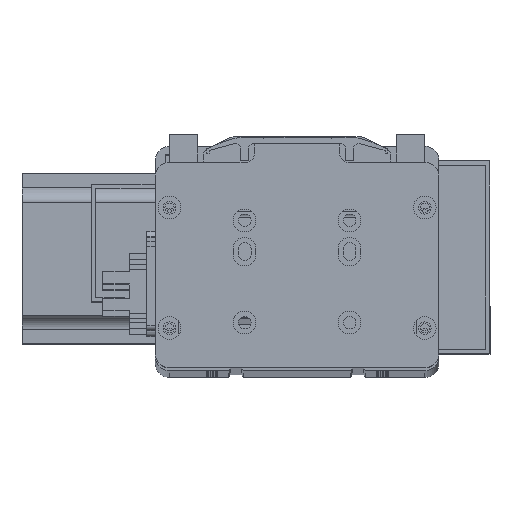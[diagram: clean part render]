
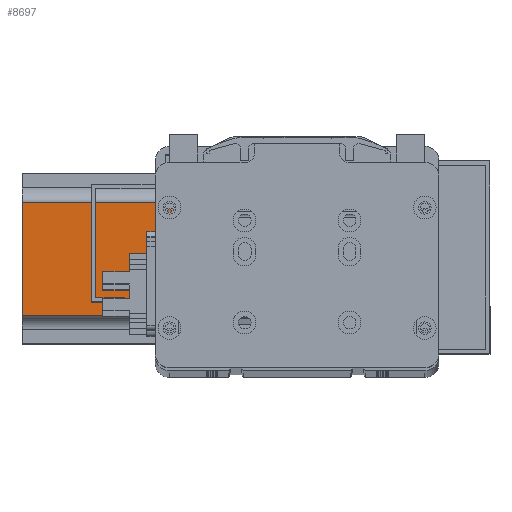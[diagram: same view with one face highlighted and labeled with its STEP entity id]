
A CAD part, top view. The second image highlights one B-rep face of the part: STEP entity #8697.
In plain terms, the highlighted planar face has unit normal (0, 0, 1).
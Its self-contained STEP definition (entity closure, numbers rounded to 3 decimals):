
#8531 = VERTEX_POINT ( 'NONE', #23420 ) ;
#8671 = EDGE_CURVE ( 'NONE', #8736, #8531, #23689, .T. ) ;
#8688 = VERTEX_POINT ( 'NONE', #23709 ) ;
#8694 = VERTEX_POINT ( 'NONE', #23730 ) ;
#8696 = EDGE_CURVE ( 'NONE', #8688, #8694, #23729, .T. ) ;
#8697 = ADVANCED_FACE ( 'NONE', ( #23765 ), #23764, .T. ) ;
#8698 = EDGE_LOOP ( 'NONE', ( #8699, #8701, #8702, #8705, #8708, #8710, #8713, #8714 ) ) ;
#8699 = ORIENTED_EDGE ( 'NONE', *, *, #8700, .T. ) ;
#8700 = EDGE_CURVE ( 'NONE', #8531, #8688, #23759, .T. ) ;
#8701 = ORIENTED_EDGE ( 'NONE', *, *, #8696, .T. ) ;
#8702 = ORIENTED_EDGE ( 'NONE', *, *, #8703, .T. ) ;
#8703 = EDGE_CURVE ( 'NONE', #8694, #8704, #23755, .T. ) ;
#8704 = VERTEX_POINT ( 'NONE', #23751 ) ;
#8705 = ORIENTED_EDGE ( 'NONE', *, *, #8706, .T. ) ;
#8706 = EDGE_CURVE ( 'NONE', #8704, #8707, #23750, .T. ) ;
#8707 = VERTEX_POINT ( 'NONE', #23746 ) ;
#8708 = ORIENTED_EDGE ( 'NONE', *, *, #8709, .F. ) ;
#8709 = EDGE_CURVE ( 'NONE', #8754, #8707, #23745, .T. ) ;
#8710 = ORIENTED_EDGE ( 'NONE', *, *, #8758, .F. ) ;
#8713 = ORIENTED_EDGE ( 'NONE', *, *, #8727, .F. ) ;
#8714 = ORIENTED_EDGE ( 'NONE', *, *, #8671, .T. ) ;
#8727 = EDGE_CURVE ( 'NONE', #8736, #8728, #23659, .T. ) ;
#8728 = VERTEX_POINT ( 'NONE', #23655 ) ;
#8736 = VERTEX_POINT ( 'NONE', #23644 ) ;
#8754 = VERTEX_POINT ( 'NONE', #23555 ) ;
#8758 = EDGE_CURVE ( 'NONE', #8728, #8754, #23554, .T. ) ;
#23420 = CARTESIAN_POINT ( 'NONE',  ( 25.591, 15.562, -229. ) ) ;
#23533 = DIRECTION ( 'NONE',  ( 0., 1., 0. ) ) ;
#23534 = VECTOR ( 'NONE', #23533, 1000. ) ;
#23535 = CARTESIAN_POINT ( 'NONE',  ( -99.409, 10.562, -229. ) ) ;
#23551 = DIRECTION ( 'NONE',  ( -1., 0., 0. ) ) ;
#23552 = VECTOR ( 'NONE', #23551, 1000. ) ;
#23553 = CARTESIAN_POINT ( 'NONE',  ( 18.591, 20.562, -229. ) ) ;
#23554 = LINE ( 'NONE', #23553, #23552 ) ;
#23555 = CARTESIAN_POINT ( 'NONE',  ( -99.409, 20.562, -229. ) ) ;
#23644 = CARTESIAN_POINT ( 'NONE',  ( 18.591, 15.562, -229. ) ) ;
#23655 = CARTESIAN_POINT ( 'NONE',  ( 18.591, 20.562, -229. ) ) ;
#23656 = DIRECTION ( 'NONE',  ( 0., 1., 0. ) ) ;
#23657 = VECTOR ( 'NONE', #23656, 1000. ) ;
#23658 = CARTESIAN_POINT ( 'NONE',  ( 18.591, 10.562, -229. ) ) ;
#23659 = LINE ( 'NONE', #23658, #23657 ) ;
#23686 = DIRECTION ( 'NONE',  ( 1., 0., 0. ) ) ;
#23687 = VECTOR ( 'NONE', #23686, 1000. ) ;
#23688 = CARTESIAN_POINT ( 'NONE',  ( 25.591, 15.562, -229. ) ) ;
#23689 = LINE ( 'NONE', #23688, #23687 ) ;
#23709 = CARTESIAN_POINT ( 'NONE',  ( 25.591, 65.562, -229. ) ) ;
#23726 = DIRECTION ( 'NONE',  ( -1., 0., 0. ) ) ;
#23727 = VECTOR ( 'NONE', #23726, 1000. ) ;
#23728 = CARTESIAN_POINT ( 'NONE',  ( 18.591, 65.562, -229. ) ) ;
#23729 = LINE ( 'NONE', #23728, #23727 ) ;
#23730 = CARTESIAN_POINT ( 'NONE',  ( 18.591, 65.562, -229. ) ) ;
#23745 = LINE ( 'NONE', #23535, #23534 ) ;
#23746 = CARTESIAN_POINT ( 'NONE',  ( -99.409, 60.562, -229. ) ) ;
#23747 = DIRECTION ( 'NONE',  ( -1., 0., 0. ) ) ;
#23748 = VECTOR ( 'NONE', #23747, 1000. ) ;
#23749 = CARTESIAN_POINT ( 'NONE',  ( 18.591, 60.562, -229. ) ) ;
#23750 = LINE ( 'NONE', #23749, #23748 ) ;
#23751 = CARTESIAN_POINT ( 'NONE',  ( 18.591, 60.562, -229. ) ) ;
#23752 = DIRECTION ( 'NONE',  ( 0., -1., 0. ) ) ;
#23753 = VECTOR ( 'NONE', #23752, 1000. ) ;
#23754 = CARTESIAN_POINT ( 'NONE',  ( 18.591, 70.562, -229. ) ) ;
#23755 = LINE ( 'NONE', #23754, #23753 ) ;
#23756 = DIRECTION ( 'NONE',  ( 0., 1., 0. ) ) ;
#23757 = VECTOR ( 'NONE', #23756, 1000. ) ;
#23758 = CARTESIAN_POINT ( 'NONE',  ( 25.591, 10.562, -229. ) ) ;
#23759 = LINE ( 'NONE', #23758, #23757 ) ;
#23760 = DIRECTION ( 'NONE',  ( 0., -1., 0. ) ) ;
#23761 = DIRECTION ( 'NONE',  ( 0., 0., 1. ) ) ;
#23762 = CARTESIAN_POINT ( 'NONE',  ( 25.591, 10.562, -229. ) ) ;
#23763 = AXIS2_PLACEMENT_3D ( 'NONE', #23762, #23761, #23760 ) ;
#23764 = PLANE ( 'NONE',  #23763 ) ;
#23765 = FACE_OUTER_BOUND ( 'NONE', #8698, .T. ) ;
